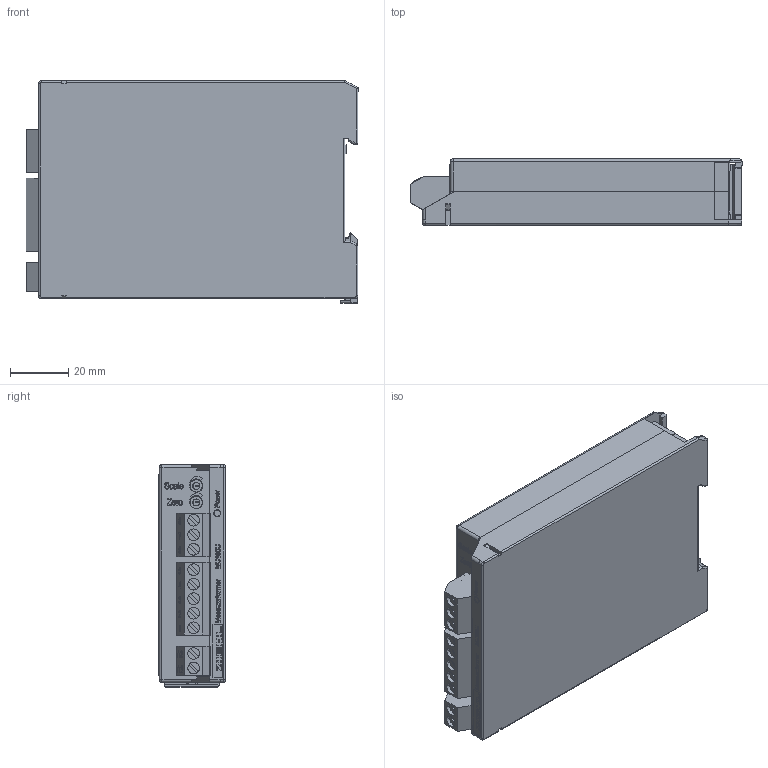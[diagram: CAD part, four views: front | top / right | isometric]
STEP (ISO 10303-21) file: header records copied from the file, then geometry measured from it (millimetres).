
FILE_DESCRIPTION (( 'STEP AP214' ), '1' );
FILE_NAME ('10730-1930-01.STEP', '2019-01-21T14:03:16', ( '' ), ( '' ), 'SwSTEP 2.0', 'SolidWorks 2018', '' );
FILE_SCHEMA (( 'AUTOMOTIVE_DESIGN' ));
Length unit declared in the file: millimetre
Products named in the file (12): K-Riegel^10730-1930-01; Klemme 31147103^10730-1930-01; Klemme 31147102^10730-1930-01; 1073 1930-Leiterpklatte^10730-1930-01; Druck Klemmen^10730-1930-01; Klemme 31147105^10730-1930-01; Typenschild 10730-1209-00^10730-1930-01; 1073 193x_K-Deckel^10730-1930-01; 1073 193x_K-UT_3D^10730-1930-01; Typenschild 10730-1200-02_10730-1209-00^10730-1930-01; 10730-1930-01; pan head cross recess screw_din_ISO 7045 - M3 x 4 - Z --- 4N
Assembly tree (11 placements, depth 2):
  10730-1930-01
    1073 193x_K-UT_3D^10730-1930-01
    1073 193x_K-Deckel^10730-1930-01
    1073 1930-Leiterpklatte^10730-1930-01
    K-Riegel^10730-1930-01
    pan head cross recess screw_din_ISO 7045 - M3 x 4 - Z --- 4N
    Klemme 31147102^10730-1930-01
    Klemme 31147105^10730-1930-01
    Klemme 31147103^10730-1930-01
    Druck Klemmen^10730-1930-01
    Typenschild 10730-1200-02_10730-1209-00^10730-1930-01
    Typenschild 10730-1209-00^10730-1930-01
Bounding box: 114.34 x 22.9 x 76.65 mm (x, y, z)
Volume: 50569.9 mm3; surface area: 64394.3 mm2
Topology: 8 solids, 417 shells, 1446 faces, 6369 edges, 5420 vertices
Faces by surface type: plane 965, cylinder 236, bspline 145, cone 40, torus 35, sphere 25
Entity records: 84783 total; most frequent: CARTESIAN_POINT 29896, ORIENTED_EDGE 8901, DIRECTION 8164, EDGE_CURVE 6345, VERTEX_POINT 5420, VECTOR 4352, LINE 4352, AXIS2_PLACEMENT_3D 1906
